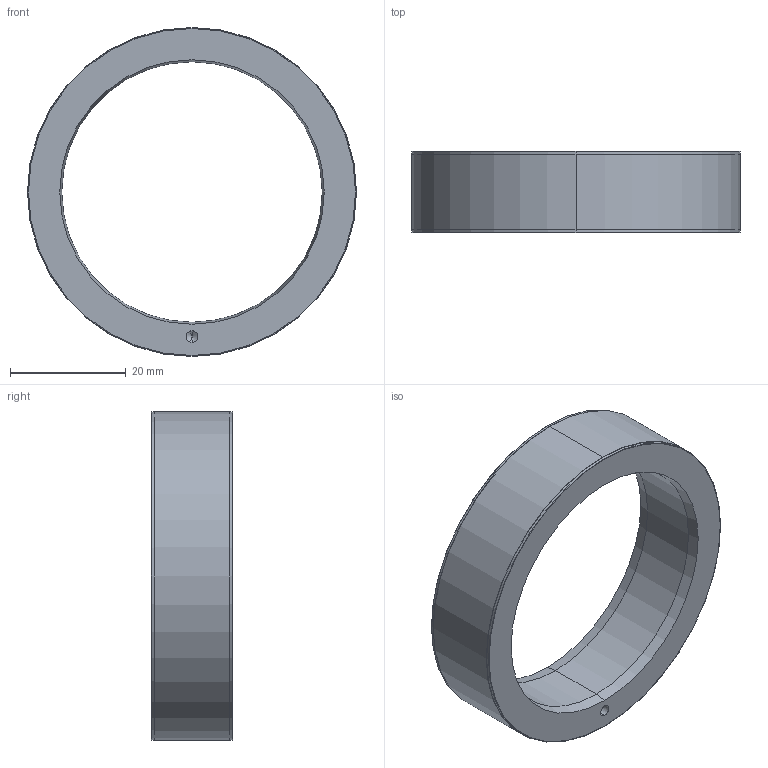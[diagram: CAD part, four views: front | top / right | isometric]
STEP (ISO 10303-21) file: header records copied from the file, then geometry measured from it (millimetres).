
FILE_DESCRIPTION (( 'STEP AP214' ), '1' );
FILE_NAME ('SAR057.STEP', '2023-04-21T12:44:04', ( '' ), ( '' ), 'SwSTEP 2.0', 'SolidWorks 2020', '' );
FILE_SCHEMA (( 'AUTOMOTIVE_DESIGN' ));
Length unit declared in the file: millimetre
Products named in the file (1): SAR057
Bounding box: 56.85 x 14 x 56.85 mm (x, y, z)
Volume: 13127 mm3; surface area: 6361.9 mm2
Topology: 1 solids, 1 shells, 494 faces, 1332 edges, 882 vertices
Faces by surface type: plane 367, bspline 88, cylinder 27, cone 8, torus 4
Entity records: 19822 total; most frequent: CARTESIAN_POINT 7553, ORIENTED_EDGE 2656, DIRECTION 2032, EDGE_CURVE 1328, LINE 1086, VECTOR 1086, VERTEX_POINT 882, EDGE_LOOP 542
